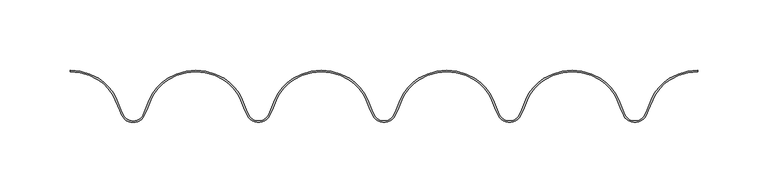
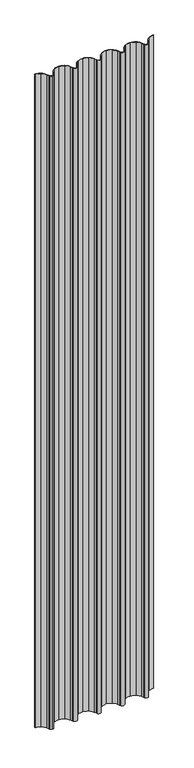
"""IFC4 building model written with IfcOpenShell, lengths in millimetres: plate geometry, Regolare Couverture 445  : Regolare Couverture 445 ."""

from ifc_helpers import new_model, si_unit, point, frame_2d, origin, origin_with_axes, place, context, project, spatial, polyline, circle_curve, trimmed, segment, composite_curve, outline, extrude, source, transform, mapped, element, save


def plate_1de7616a(model_context):
    return source(origin(), model_context, "Body", "SweptSolid", [
        extrude(outline(composite_curve([segment(trimmed(circle_curve(frame_2d((-222.6287227, -1.5098563)), 37.4503244), [point((-203.0879726, 30.4383187))], [point((-222.6287227, 35.9404682))], True, "CARTESIAN"), True, "CONTINUOUS"), segment(polyline([(-222.6287227, 35.9404682), (-222.6287227, 36.9404682)]), True, "CONTINUOUS"), segment(trimmed(circle_curve(frame_2d((-222.6287227, -1.5098563)), 38.4503244), [point((-222.6287227, 36.9404682))], [point((-202.5661947, 31.2914001))], False, "CARTESIAN"), True, "CONTINUOUS"), segment(trimmed(circle_curve(frame_2d((-219.0630775, 4.3198001)), 31.6166783), [point((-202.5661947, 31.2914001))], [point((-189.7075932, 16.0616012))], False, "CARTESIAN"), True, "CONTINUOUS"), segment(polyline([(-189.7075932, 16.0616012), (-186.8383715, 8.8980757), (-185.1920178, 5.4633665)]), True, "CONTINUOUS"), segment(trimmed(circle_curve(frame_2d((-178.1029782, 8.8613445)), 7.8613445), [point((-185.1920178, 5.4633665))], [point((-178.1029782, 1.0))], True, "CARTESIAN"), True, "CONTINUOUS"), segment(trimmed(circle_curve(frame_2d((-178.1029782, 8.8613445)), 7.8613445), [point((-178.1029782, 1.0))], [point((-171.0139385, 5.4633665))], True, "CARTESIAN"), True, "CONTINUOUS"), segment(polyline([(-171.0139385, 5.4633665), (-169.3675848, 8.8980757), (-166.4983631, 16.0616012)]), True, "CONTINUOUS"), segment(trimmed(circle_curve(frame_2d((-137.1428789, 4.3198001)), 31.6166783), [point((-166.4983631, 16.0616012))], [point((-153.6397616, 31.2914001))], False, "CARTESIAN"), True, "CONTINUOUS"), segment(trimmed(circle_curve(frame_2d((-133.5772336, -1.5098563)), 38.4503244), [point((-153.6397616, 31.2914001))], [point((-133.5772336, 36.9404682))], False, "CARTESIAN"), True, "CONTINUOUS"), segment(trimmed(circle_curve(frame_2d((-133.5772336, -1.5098563)), 38.4503244), [point((-133.5772336, 36.9404682))], [point((-113.5147056, 31.2914001))], False, "CARTESIAN"), True, "CONTINUOUS"), segment(trimmed(circle_curve(frame_2d((-130.0115884, 4.3198001)), 31.6166783), [point((-113.5147056, 31.2914001))], [point((-100.6561042, 16.0616012))], False, "CARTESIAN"), True, "CONTINUOUS"), segment(polyline([(-100.6561042, 16.0616012), (-97.7868824, 8.8980757), (-96.1405287, 5.4633665)]), True, "CONTINUOUS"), segment(trimmed(circle_curve(frame_2d((-89.0514891, 8.8613445)), 7.8613445), [point((-96.1405287, 5.4633665))], [point((-81.9624494, 5.4633665))], True, "CARTESIAN"), True, "CONTINUOUS"), segment(polyline([(-81.9624494, 5.4633665), (-80.3160957, 8.8980757), (-77.446874, 16.0616012)]), True, "CONTINUOUS"), segment(trimmed(circle_curve(frame_2d((-48.0913898, 4.3198001)), 31.6166783), [point((-77.446874, 16.0616012))], [point((-64.5882725, 31.2914001))], False, "CARTESIAN"), True, "CONTINUOUS"), segment(trimmed(circle_curve(frame_2d((-44.5257445, -1.5098563)), 38.4503244), [point((-64.5882725, 31.2914001))], [point((-44.5257445, 36.9404682))], False, "CARTESIAN"), True, "CONTINUOUS"), segment(trimmed(circle_curve(frame_2d((-44.5257445, -1.5098563)), 38.4503244), [point((-44.5257445, 36.9404682))], [point((-24.4632165, 31.2914001))], False, "CARTESIAN"), True, "CONTINUOUS"), segment(trimmed(circle_curve(frame_2d((-40.9600993, 4.3198001)), 31.6166783), [point((-24.4632165, 31.2914001))], [point((-11.6046151, 16.0616012))], False, "CARTESIAN"), True, "CONTINUOUS"), segment(polyline([(-11.6046151, 16.0616012), (-8.7353934, 8.8980757), (-7.0890396, 5.4633665)]), True, "CONTINUOUS"), segment(trimmed(circle_curve(frame_2d((0.0, 8.8613445)), 7.8613445), [point((-7.0890396, 5.4633665))], [point((7.0890396, 5.4633665))], True, "CARTESIAN"), True, "CONTINUOUS"), segment(polyline([(7.0890396, 5.4633665), (8.7353934, 8.8980757), (11.6046151, 16.0616012)]), True, "CONTINUOUS"), segment(trimmed(circle_curve(frame_2d((40.9600993, 4.3198001)), 31.6166783), [point((11.6046151, 16.0616012))], [point((24.4632165, 31.2914001))], False, "CARTESIAN"), True, "CONTINUOUS"), segment(trimmed(circle_curve(frame_2d((44.5257445, -1.5098563)), 38.4503244), [point((24.4632165, 31.2914001))], [point((44.5257445, 36.9404682))], False, "CARTESIAN"), True, "CONTINUOUS"), segment(trimmed(circle_curve(frame_2d((44.5257445, -1.5098563)), 38.4503244), [point((44.5257445, 36.9404682))], [point((64.5882725, 31.2914001))], False, "CARTESIAN"), True, "CONTINUOUS"), segment(trimmed(circle_curve(frame_2d((48.0913898, 4.3198001)), 31.6166783), [point((64.5882725, 31.2914001))], [point((77.446874, 16.0616012))], False, "CARTESIAN"), True, "CONTINUOUS"), segment(polyline([(77.446874, 16.0616012), (80.3160957, 8.8980757), (81.9624494, 5.4633665)]), True, "CONTINUOUS"), segment(trimmed(circle_curve(frame_2d((89.0514891, 8.8613445)), 7.8613445), [point((81.9624494, 5.4633665))], [point((96.1405287, 5.4633665))], True, "CARTESIAN"), True, "CONTINUOUS"), segment(polyline([(96.1405287, 5.4633665), (97.7868824, 8.8980757), (100.6561042, 16.0616012)]), True, "CONTINUOUS"), segment(trimmed(circle_curve(frame_2d((130.0115884, 4.3198001)), 31.6166783), [point((100.6561042, 16.0616012))], [point((113.5147056, 31.2914001))], False, "CARTESIAN"), True, "CONTINUOUS"), segment(trimmed(circle_curve(frame_2d((133.5772336, -1.5098563)), 38.4503244), [point((113.5147056, 31.2914001))], [point((133.5772336, 36.9404682))], False, "CARTESIAN"), True, "CONTINUOUS"), segment(trimmed(circle_curve(frame_2d((133.5772336, -1.5098563)), 38.4503244), [point((133.5772336, 36.9404682))], [point((153.6397616, 31.2914001))], False, "CARTESIAN"), True, "CONTINUOUS"), segment(trimmed(circle_curve(frame_2d((137.1428789, 4.3198001)), 31.6166783), [point((153.6397616, 31.2914001))], [point((166.4983631, 16.0616012))], False, "CARTESIAN"), True, "CONTINUOUS"), segment(polyline([(166.4983631, 16.0616012), (169.3675848, 8.8980757), (171.0139385, 5.4633665)]), True, "CONTINUOUS"), segment(trimmed(circle_curve(frame_2d((178.1029782, 8.8613445)), 7.8613445), [point((171.0139385, 5.4633665))], [point((185.1920178, 5.4633665))], True, "CARTESIAN"), True, "CONTINUOUS"), segment(polyline([(185.1920178, 5.4633665), (186.8383715, 8.8980757), (189.7075932, 16.0616012)]), True, "CONTINUOUS"), segment(trimmed(circle_curve(frame_2d((219.0630775, 4.3198001)), 31.6166783), [point((189.7075932, 16.0616012))], [point((202.5661947, 31.2914001))], False, "CARTESIAN"), True, "CONTINUOUS"), segment(trimmed(circle_curve(frame_2d((222.6287227, -1.5098563)), 38.4503244), [point((202.5661947, 31.2914001))], [point((222.6287227, 36.9404682))], False, "CARTESIAN"), True, "CONTINUOUS"), segment(polyline([(222.6287227, 36.9404682), (222.6287227, 35.9404682)]), True, "CONTINUOUS"), segment(trimmed(circle_curve(frame_2d((222.6287227, -1.5098563)), 37.4503244), [point((222.6287227, 35.9404682))], [point((203.0879726, 30.4383187))], True, "CARTESIAN"), True, "CONTINUOUS"), segment(trimmed(circle_curve(frame_2d((219.0630775, 4.3198001)), 30.6166783), [point((203.0879726, 30.4383187))], [point((190.6359876, 15.6900047))], True, "CARTESIAN"), True, "CONTINUOUS"), segment(polyline([(190.6359876, 15.6900047), (187.7544017, 8.4956098), (186.093777, 5.0311277)]), True, "CONTINUOUS"), segment(trimmed(circle_curve(frame_2d((178.1029782, 8.8613445)), 8.8613445), [point((186.093777, 5.0311277))], [point((170.1121793, 5.0311277))], False, "CARTESIAN"), True, "CONTINUOUS"), segment(polyline([(170.1121793, 5.0311277), (168.4515546, 8.4956098), (165.5699687, 15.6900047)]), True, "CONTINUOUS"), segment(trimmed(circle_curve(frame_2d((137.1428789, 4.3198001)), 30.6166783), [point((165.5699687, 15.6900047))], [point((153.1179838, 30.4383187))], True, "CARTESIAN"), True, "CONTINUOUS"), segment(trimmed(circle_curve(frame_2d((133.5772336, -1.5098563)), 37.4503244), [point((153.1179838, 30.4383187))], [point((133.5772336, 35.9404682))], True, "CARTESIAN"), True, "CONTINUOUS"), segment(trimmed(circle_curve(frame_2d((133.5772336, -1.5098563)), 37.4503244), [point((133.5772336, 35.9404682))], [point((114.0364835, 30.4383187))], True, "CARTESIAN"), True, "CONTINUOUS"), segment(trimmed(circle_curve(frame_2d((130.0115884, 4.3198001)), 30.6166783), [point((114.0364835, 30.4383187))], [point((101.5844985, 15.6900047))], True, "CARTESIAN"), True, "CONTINUOUS"), segment(polyline([(101.5844985, 15.6900047), (98.7029126, 8.4956098), (97.0422879, 5.0311277)]), True, "CONTINUOUS"), segment(trimmed(circle_curve(frame_2d((89.0514891, 8.8613445)), 8.8613445), [point((97.0422879, 5.0311277))], [point((81.0606903, 5.0311277))], False, "CARTESIAN"), True, "CONTINUOUS"), segment(polyline([(81.0606903, 5.0311277), (79.4000655, 8.4956098), (76.5184796, 15.6900047)]), True, "CONTINUOUS"), segment(trimmed(circle_curve(frame_2d((48.0913898, 4.3198001)), 30.6166783), [point((76.5184796, 15.6900047))], [point((64.0664947, 30.4383187))], True, "CARTESIAN"), True, "CONTINUOUS"), segment(trimmed(circle_curve(frame_2d((44.5257445, -1.5098563)), 37.4503244), [point((64.0664947, 30.4383187))], [point((44.5257445, 35.9404682))], True, "CARTESIAN"), True, "CONTINUOUS"), segment(trimmed(circle_curve(frame_2d((44.5257445, -1.5098563)), 37.4503244), [point((44.5257445, 35.9404682))], [point((24.9849944, 30.4383187))], True, "CARTESIAN"), True, "CONTINUOUS"), segment(trimmed(circle_curve(frame_2d((40.9600993, 4.3198001)), 30.6166783), [point((24.9849944, 30.4383187))], [point((12.5330095, 15.6900047))], True, "CARTESIAN"), True, "CONTINUOUS"), segment(polyline([(12.5330095, 15.6900047), (9.6514235, 8.4956098), (7.9907988, 5.0311277)]), True, "CONTINUOUS"), segment(trimmed(circle_curve(frame_2d((0.0, 8.8613445)), 8.8613445), [point((7.9907988, 5.0311277))], [point((-7.9907988, 5.0311277))], False, "CARTESIAN"), True, "CONTINUOUS"), segment(polyline([(-7.9907988, 5.0311277), (-9.6514235, 8.4956098), (-12.5330095, 15.6900047)]), True, "CONTINUOUS"), segment(trimmed(circle_curve(frame_2d((-40.9600993, 4.3198001)), 30.6166783), [point((-12.5330095, 15.6900047))], [point((-24.9849944, 30.4383187))], True, "CARTESIAN"), True, "CONTINUOUS"), segment(trimmed(circle_curve(frame_2d((-44.5257445, -1.5098563)), 37.4503244), [point((-24.9849944, 30.4383187))], [point((-44.5257445, 35.9404682))], True, "CARTESIAN"), True, "CONTINUOUS"), segment(trimmed(circle_curve(frame_2d((-44.5257445, -1.5098563)), 37.4503244), [point((-44.5257445, 35.9404682))], [point((-64.0664947, 30.4383187))], True, "CARTESIAN"), True, "CONTINUOUS"), segment(trimmed(circle_curve(frame_2d((-48.0913898, 4.3198001)), 30.6166783), [point((-64.0664947, 30.4383187))], [point((-76.5184796, 15.6900047))], True, "CARTESIAN"), True, "CONTINUOUS"), segment(polyline([(-76.5184796, 15.6900047), (-79.4000655, 8.4956098), (-81.0606903, 5.0311277)]), True, "CONTINUOUS"), segment(trimmed(circle_curve(frame_2d((-89.0514891, 8.8613445)), 8.8613445), [point((-81.0606903, 5.0311277))], [point((-97.0422879, 5.0311277))], False, "CARTESIAN"), True, "CONTINUOUS"), segment(polyline([(-97.0422879, 5.0311277), (-98.7029126, 8.4956098), (-101.5844985, 15.6900047)]), True, "CONTINUOUS"), segment(trimmed(circle_curve(frame_2d((-130.0115884, 4.3198001)), 30.6166783), [point((-101.5844985, 15.6900047))], [point((-114.0364835, 30.4383187))], True, "CARTESIAN"), True, "CONTINUOUS"), segment(trimmed(circle_curve(frame_2d((-133.5772336, -1.5098563)), 37.4503244), [point((-114.0364835, 30.4383187))], [point((-133.5772336, 35.9404682))], True, "CARTESIAN"), True, "CONTINUOUS"), segment(trimmed(circle_curve(frame_2d((-133.5772336, -1.5098563)), 37.4503244), [point((-133.5772336, 35.9404682))], [point((-153.1179838, 30.4383187))], True, "CARTESIAN"), True, "CONTINUOUS"), segment(trimmed(circle_curve(frame_2d((-137.1428789, 4.3198001)), 30.6166783), [point((-153.1179838, 30.4383187))], [point((-165.5699687, 15.6900047))], True, "CARTESIAN"), True, "CONTINUOUS"), segment(polyline([(-165.5699687, 15.6900047), (-168.4515546, 8.4956098), (-170.1121793, 5.0311277)]), True, "CONTINUOUS"), segment(trimmed(circle_curve(frame_2d((-178.1029782, 8.8613445)), 8.8613445), [point((-170.1121793, 5.0311277))], [point((-178.1029782, 0.0))], False, "CARTESIAN"), True, "CONTINUOUS"), segment(trimmed(circle_curve(frame_2d((-178.1029782, 8.8613445)), 8.8613445), [point((-178.1029782, 0.0))], [point((-186.093777, 5.0311277))], False, "CARTESIAN"), True, "CONTINUOUS"), segment(polyline([(-186.093777, 5.0311277), (-187.7544017, 8.4956098), (-190.6359876, 15.6900047)]), True, "CONTINUOUS"), segment(trimmed(circle_curve(frame_2d((-219.0630775, 4.3198001)), 30.6166783), [point((-190.6359876, 15.6900047))], [point((-203.0879726, 30.4383187))], True, "CARTESIAN"), True, "CONTINUOUS")], self_intersect=False)), origin_with_axes(), (0.0, 0.0, 1.0), 2588.190451),
    ])


if __name__ == "__main__":
    model = new_model("IFC4")
    model_context = context("Model", 3, world=origin())
    ifc_project = project(units=[si_unit("LENGTHUNIT", "METRE", prefix="MILLI")], contexts=[model_context])
    site = spatial("IfcSite", under=ifc_project)
    building = spatial("IfcBuilding", under=site)
    placement = place(None, origin())
    plate_shape = plate_1de7616a(model_context)
    element("IfcPlate", 1, ObjectType="Regolare Couverture 445  : Regolare Couverture 445 ", at=placement, inside=building, context=model_context, shape_type="MappedRepresentation", body=[
        mapped(plate_shape, transform((0.0, 0.0, 0.0), x_axis=(1.0, 0.0, 0.0), y_axis=(0.0, 1.0, 0.0), z_axis=(0.0, 0.0, 1.0))),
    ])
    save(model, "model.ifc")
